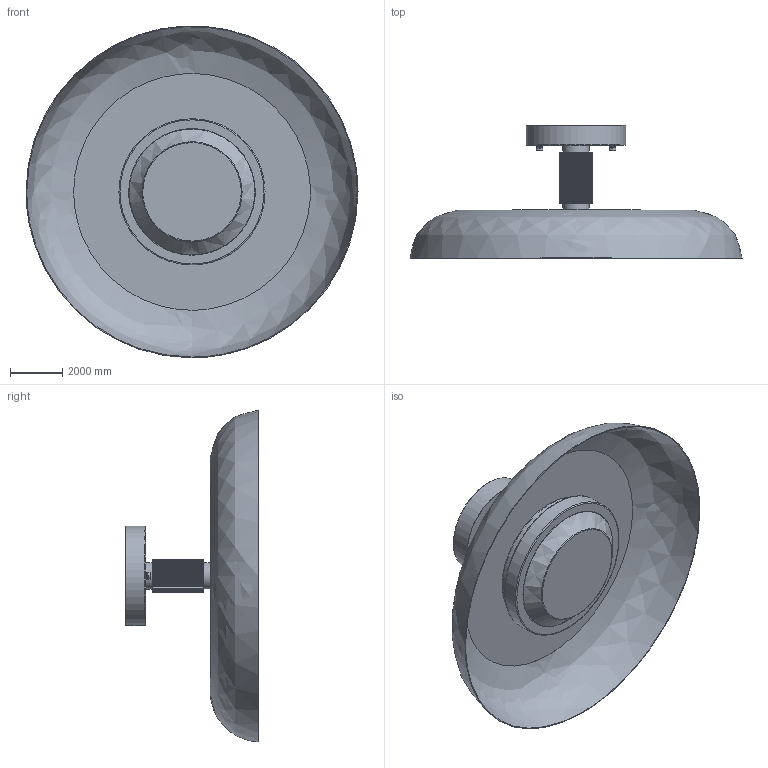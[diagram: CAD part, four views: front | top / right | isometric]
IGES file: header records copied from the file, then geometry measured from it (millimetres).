
Global section: file name: Oscar Ceiling Lamp; native system: AutoCAD 2022 - 简体中文 (Simplified Chinese),62HAuto; preprocessor: desk Translation Framework DWG producer (atf_dwg_producer); organization: unknown; date: 20250422.115245; units: inch
Bounding box: 12700 x 5081.28 x 12690.14 mm (x, y, z)
Volume: 11191829325.1 mm3; surface area: 550368250.8 mm2
Topology: 10 solids, 10 shells, 505 faces, 1253 edges, 911 vertices
Faces by surface type: bspline 505
